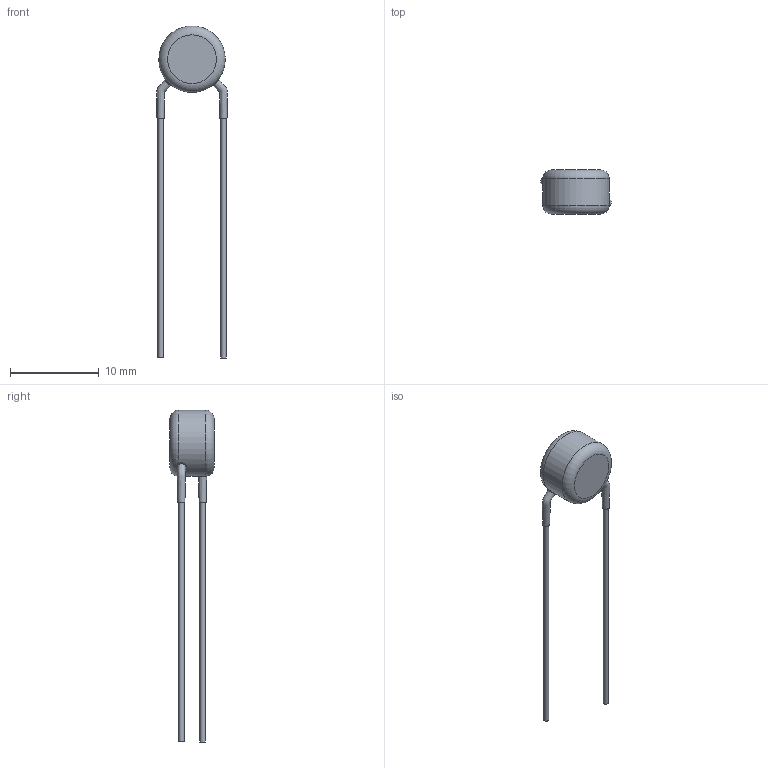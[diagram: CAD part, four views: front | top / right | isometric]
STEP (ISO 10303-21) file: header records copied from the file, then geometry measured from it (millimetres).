
FILE_DESCRIPTION(/* description */ (''),/* implementation_level */ '2;1');
FILE_NAME(/* name */ 'I:\Marketing\M6t1\3D-Models\Zchng-Werk-3\Upload for homepage\BCC neu\AY2 Straight\Step\AY2150K29U2JS63L7.stp',/* time_stamp */ '2023-07-13T14:05:02+02:00',/* author */ ('truediger'),/* organization */ (''),/* preprocessor_version */ 'ST-DEVELOPER v18',/* originating_system */ 'Autodesk Inventor 2020',/* authorisation */ '');
FILE_SCHEMA (('AUTOMOTIVE_DESIGN { 1 0 10303 214 3 1 1 }'));
Length unit declared in the file: millimetre
Products named in the file (1): Bauteil2
Bounding box: 7.98 x 5 x 37.5 mm (x, y, z)
Volume: 232.1 mm3; surface area: 310.9 mm2
Topology: 1 solids, 1 shells, 19 faces, 43 edges, 28 vertices
Faces by surface type: bspline 8, plane 6, cylinder 3, torus 2
Full cylindrical faces by diameter (mm): 0.6 x2, 7.5 x1
Entity records: 1784 total; most frequent: CARTESIAN_POINT 1323, ORIENTED_EDGE 86, DIRECTION 75, EDGE_CURVE 43, AXIS2_PLACEMENT_3D 36, VERTEX_POINT 28, CIRCLE 24, EDGE_LOOP 21
